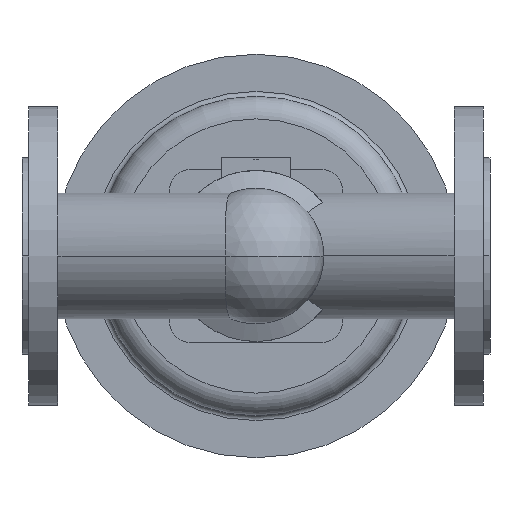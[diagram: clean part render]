
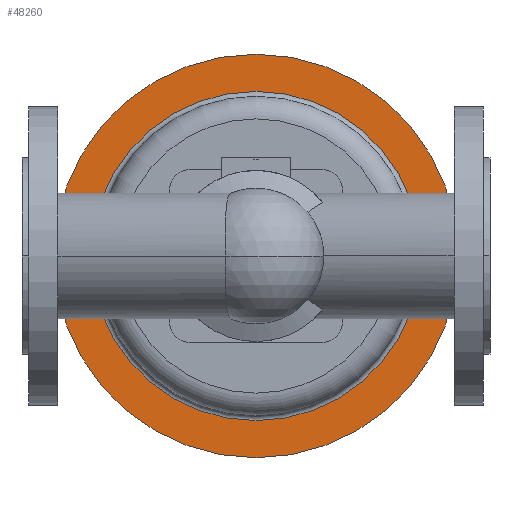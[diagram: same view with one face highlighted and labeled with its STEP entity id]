
A CAD part, front view. The second image highlights one B-rep face of the part: STEP entity #48260.
In plain terms, the highlighted planar face has unit normal (0, -1, 0).
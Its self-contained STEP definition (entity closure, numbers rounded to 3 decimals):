
#33430=CARTESIAN_POINT('',(270.,409.,0.));
#33440=VERTEX_POINT('',#33430);
#33600=CARTESIAN_POINT('',(20.,409.,0.));
#33610=VERTEX_POINT('',#33600);
#33640=CARTESIAN_POINT('',(145.,409.,0.));
#33650=DIRECTION('',(0.,1.,0.));
#33660=DIRECTION('',(1.,0.,0.));
#33670=AXIS2_PLACEMENT_3D('',#33640,#33650,#33660);
#33680=CIRCLE('',#33670,125.);
#33690=EDGE_CURVE('',#33440,#33610,#33680,.T.);
#33790=CARTESIAN_POINT('',(145.,409.,0.));
#33800=DIRECTION('',(0.,1.,0.));
#33810=DIRECTION('',(1.,0.,0.));
#33820=AXIS2_PLACEMENT_3D('',#33790,#33800,#33810);
#33830=CIRCLE('',#33820,102.);
#33840=CARTESIAN_POINT('',(145.,409.,-102.));
#33850=VERTEX_POINT('',#33840);
#33860=CARTESIAN_POINT('',(43.,409.,0.));
#33870=VERTEX_POINT('',#33860);
#33880=EDGE_CURVE('',#33850,#33870,#33830,.T.);
#34130=CARTESIAN_POINT('',(247.,409.,0.));
#34140=VERTEX_POINT('',#34130);
#34170=EDGE_CURVE('',#34140,#33850,#33830,.T.);
#48100=CARTESIAN_POINT('',(258.5,409.,0.));
#48110=DIRECTION('',(0.,-1.,0.));
#48120=DIRECTION('',(-1.,0.,0.));
#48130=AXIS2_PLACEMENT_3D('',#48100,#48110,#48120);
#48140=PLANE('',#48130);
#48150=EDGE_CURVE('',#33610,#33440,#33680,.T.);
#48160=ORIENTED_EDGE('',*,*,#48150,.F.);
#48170=ORIENTED_EDGE('',*,*,#33690,.F.);
#48180=EDGE_LOOP('',(#48170,#48160));
#48190=FACE_OUTER_BOUND('',#48180,.T.);
#48200=EDGE_CURVE('',#33870,#34140,#33830,.T.);
#48210=ORIENTED_EDGE('',*,*,#48200,.T.);
#48220=ORIENTED_EDGE('',*,*,#33880,.T.);
#48230=ORIENTED_EDGE('',*,*,#34170,.T.);
#48240=EDGE_LOOP('',(#48230,#48220,#48210));
#48250=FACE_BOUND('',#48240,.T.);
#48260=ADVANCED_FACE('',(#48190,#48250),#48140,.T.);
